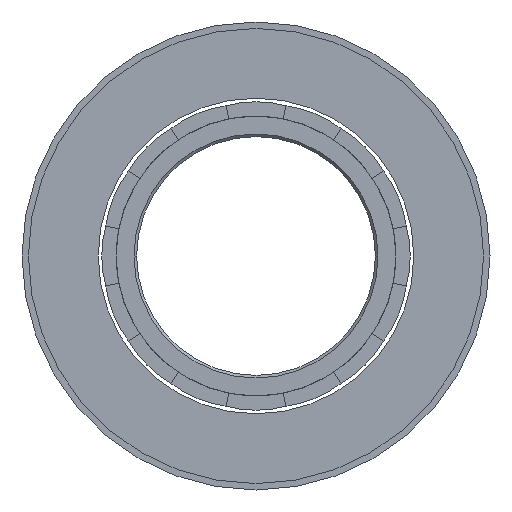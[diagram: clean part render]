
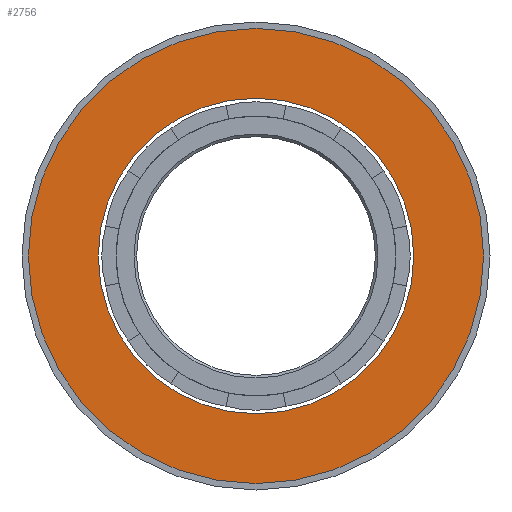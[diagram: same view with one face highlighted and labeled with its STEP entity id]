
A CAD part, front view. The second image highlights one B-rep face of the part: STEP entity #2756.
In plain terms, the highlighted planar face has unit normal (0, -1, 0).
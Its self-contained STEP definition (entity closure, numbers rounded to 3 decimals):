
#163 = FACE_BOUND ( 'NONE', #1361, .T. ) ;
#305 = CIRCLE ( 'NONE', #2439, 30.85 ) ;
#360 = AXIS2_PLACEMENT_3D ( 'NONE', #2717, #432, #1982 ) ;
#432 = DIRECTION ( 'NONE',  ( 0., 1., 0. ) ) ;
#470 = ORIENTED_EDGE ( 'NONE', *, *, #1762, .F. ) ;
#484 = CIRCLE ( 'NONE', #2938, 30.85 ) ;
#499 = VERTEX_POINT ( 'NONE', #1928 ) ;
#521 = DIRECTION ( 'NONE',  ( 1., 0., 0. ) ) ;
#563 = DIRECTION ( 'NONE',  ( 0., 1., 0. ) ) ;
#682 = FACE_OUTER_BOUND ( 'NONE', #808, .T. ) ;
#737 = EDGE_CURVE ( 'NONE', #2422, #499, #484, .T. ) ;
#743 = EDGE_CURVE ( 'NONE', #904, #2711, #1499, .T. ) ;
#746 = AXIS2_PLACEMENT_3D ( 'NONE', #1571, #2086, #1348 ) ;
#808 = EDGE_LOOP ( 'NONE', ( #470, #2537 ) ) ;
#904 = VERTEX_POINT ( 'NONE', #3026 ) ;
#1058 = CARTESIAN_POINT ( 'NONE',  ( 0., -6.5, 0. ) ) ;
#1116 = DIRECTION ( 'NONE',  ( 0., 1., 0. ) ) ;
#1124 = ORIENTED_EDGE ( 'NONE', *, *, #3040, .T. ) ;
#1348 = DIRECTION ( 'NONE',  ( 1., 0., 0. ) ) ;
#1361 = EDGE_LOOP ( 'NONE', ( #1124, #2393 ) ) ;
#1499 = CIRCLE ( 'NONE', #746, 44.5 ) ;
#1571 = CARTESIAN_POINT ( 'NONE',  ( 0., -6.5, 0. ) ) ;
#1703 = PLANE ( 'NONE',  #360 ) ;
#1752 = CARTESIAN_POINT ( 'NONE',  ( 30.85, -6.5, 0. ) ) ;
#1762 = EDGE_CURVE ( 'NONE', #2711, #904, #1938, .T. ) ;
#1928 = CARTESIAN_POINT ( 'NONE',  ( -30.85, -6.5, 0. ) ) ;
#1938 = CIRCLE ( 'NONE', #2203, 44.5 ) ;
#1982 = DIRECTION ( 'NONE',  ( 1., 0., 0. ) ) ;
#2086 = DIRECTION ( 'NONE',  ( 0., 1., 0. ) ) ;
#2196 = CARTESIAN_POINT ( 'NONE',  ( -44.5, -6.5, 0. ) ) ;
#2197 = CARTESIAN_POINT ( 'NONE',  ( 0., -6.5, 0. ) ) ;
#2203 = AXIS2_PLACEMENT_3D ( 'NONE', #2617, #563, #3122 ) ;
#2342 = DIRECTION ( 'NONE',  ( 1., 0., 0. ) ) ;
#2393 = ORIENTED_EDGE ( 'NONE', *, *, #737, .T. ) ;
#2422 = VERTEX_POINT ( 'NONE', #1752 ) ;
#2439 = AXIS2_PLACEMENT_3D ( 'NONE', #2197, #3219, #521 ) ;
#2537 = ORIENTED_EDGE ( 'NONE', *, *, #743, .F. ) ;
#2617 = CARTESIAN_POINT ( 'NONE',  ( 0., -6.5, 0. ) ) ;
#2711 = VERTEX_POINT ( 'NONE', #2196 ) ;
#2717 = CARTESIAN_POINT ( 'NONE',  ( 0., -6.5, 0. ) ) ;
#2756 = ADVANCED_FACE ( 'NONE', ( #682, #163 ), #1703, .F. ) ;
#2938 = AXIS2_PLACEMENT_3D ( 'NONE', #1058, #1116, #2342 ) ;
#3026 = CARTESIAN_POINT ( 'NONE',  ( 44.5, -6.5, 0. ) ) ;
#3040 = EDGE_CURVE ( 'NONE', #499, #2422, #305, .T. ) ;
#3122 = DIRECTION ( 'NONE',  ( 1., 0., 0. ) ) ;
#3219 = DIRECTION ( 'NONE',  ( 0., 1., 0. ) ) ;
